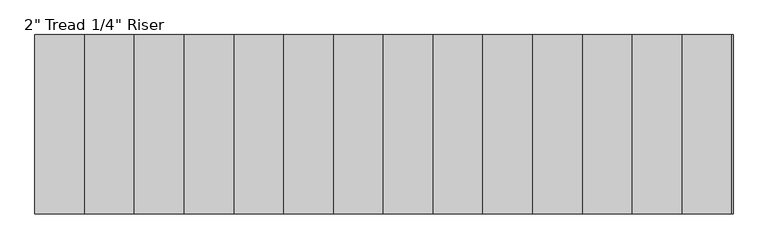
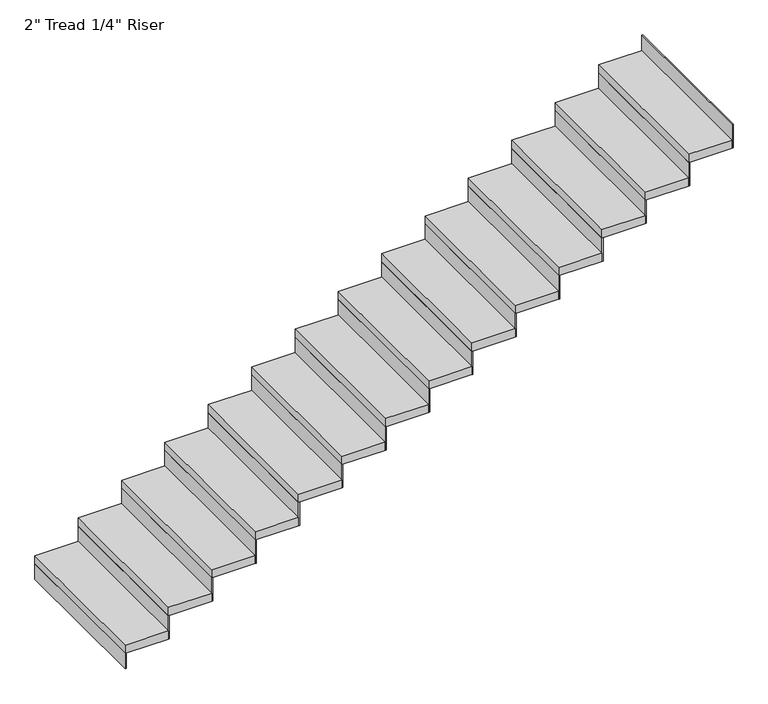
"""IFC4 building model written with IfcOpenShell, lengths in millimetres: stair flight geometry."""

import ifcopenshell
import ifcopenshell.guid

model = None  # the IFC model being written
_history = None  # IfcOwnerHistory: only IFC2X3 demands one
_inside = {}  # id of a spatial element -> (the spatial element, [elements in it])
_under = {}  # id of a project, library or spatial element -> (it, [spatial elements below it])
_declared = {}  # id of a project -> (the project, [libraries it declares])
_typed = {}  # id of a type object -> (the type object, [elements of that type])
_made_of = {}  # id of a material, layer set ... -> (it, [elements and type objects made of it])


def new_model(schema):
    """Start an empty IFC model of exactly this schema.

    Asked for "IFC4X3", IfcOpenShell would pick the latest addendum, in which some entities
    have other attributes; the version numbers below select the first issue.
    IFC2X3 requires an IfcOwnerHistory on every rooted entity: one is made here for all.
    """
    global model, _history
    if schema == "IFC4X3":
        model = ifcopenshell.file(schema_version=(4, 3, 0, 0))
    else:
        model = ifcopenshell.file(schema=schema)
    _inside.clear()
    _under.clear()
    _declared.clear()
    _typed.clear()
    _made_of.clear()
    _history = None
    if model.schema == "IFC2X3":
        org = make("IfcOrganization", Name="unknown")
        user = make(
            "IfcPersonAndOrganization",
            ThePerson=make("IfcPerson", FamilyName="unknown"),
            TheOrganization=org,
        )
        app = make(
            "IfcApplication",
            ApplicationDeveloper=org,
            Version="unknown",
            ApplicationFullName="unknown",
            ApplicationIdentifier="unknown",
        )
        _history = make(
            "IfcOwnerHistory",
            OwningUser=user,
            OwningApplication=app,
            ChangeAction="ADDED",
            CreationDate=0,
        )
    return model


def make(cls, **values):
    """One entity of the class cls with the attributes given. An attribute that is None is left unset."""
    return model.create_entity(
        cls, **{name: value for name, value in values.items() if value is not None}
    )


def rooted(cls, **values):
    """An entity with a GlobalId (a new one), such as an element, a storey or a relation."""
    return make(cls, GlobalId=ifcopenshell.guid.new(), OwnerHistory=_history, **values)


def si_unit(unit_type, name, prefix=None):
    """IfcSIUnit, for example si_unit("LENGTHUNIT", "METRE", prefix="MILLI")."""
    return make("IfcSIUnit", UnitType=unit_type, Prefix=prefix, Name=name)


def assignment(units):
    """IfcUnitAssignment: the units of a project."""
    return None if units is None else make("IfcUnitAssignment", Units=units)


def point(xyz):
    """IfcCartesianPoint."""
    return None if xyz is None else make("IfcCartesianPoint", Coordinates=xyz)


def direction(xyz):
    """IfcDirection."""
    return None if xyz is None else make("IfcDirection", DirectionRatios=xyz)


def frame(location, z_axis=None, x_axis=None):
    """IfcAxis2Placement3D, a coordinate frame: its origin and axes. An axis left out is left unset."""
    return make(
        "IfcAxis2Placement3D",
        Location=point(location),
        Axis=direction(z_axis),
        RefDirection=direction(x_axis),
    )


def origin():
    """The frame at (0, 0, 0) with its axes left unset."""
    return frame((0.0, 0.0, 0.0))


def origin_with_axes():
    """The frame at (0, 0, 0) with the z axis (0, 0, 1) and the x axis (1, 0, 0) written out."""
    return frame((0.0, 0.0, 0.0), z_axis=(0.0, 0.0, 1.0), x_axis=(1.0, 0.0, 0.0))


def place(relative_to, where):
    """IfcLocalPlacement: puts the frame where relative to a parent placement (None: the world)."""
    return make(
        "IfcLocalPlacement", PlacementRelTo=relative_to, RelativePlacement=where
    )


def context(
    kind, dimensions, precision=None, world=None, true_north=None, identifier=None
):
    """IfcGeometricRepresentationContext, for example the 3D "Model" context."""
    return make(
        "IfcGeometricRepresentationContext",
        ContextIdentifier=identifier,
        ContextType=kind,
        CoordinateSpaceDimension=dimensions,
        Precision=precision,
        WorldCoordinateSystem=world,
        TrueNorth=true_north,
    )


def project(units=None, contexts=None):
    """IfcProject with its units and contexts."""
    return rooted(
        "IfcProject",
        Name="project",
        RepresentationContexts=contexts,
        UnitsInContext=assignment(units),
    )


def spatial(cls, under=None, at=None, **own):
    """A site, building, storey or space (cls), placed at a placement, below another one or the project."""
    s = rooted(cls, ObjectPlacement=at, **own)
    if under is not None:
        _under.setdefault(under.id(), (under, []))[1].append(s)
    return s


def polyline(points):
    """IfcPolyline through the points."""
    return make("IfcPolyline", Points=[point(p) for p in points])


def outline(outer, holes=None, kind="AREA"):
    """IfcArbitraryClosedProfileDef: a profile drawn as a closed curve; with holes, ...WithVoids."""
    if holes is None:
        return make("IfcArbitraryClosedProfileDef", ProfileType=kind, OuterCurve=outer)
    return make(
        "IfcArbitraryProfileDefWithVoids",
        ProfileType=kind,
        OuterCurve=outer,
        InnerCurves=holes,
    )


def extrude(swept, where, along, depth):
    """IfcExtrudedAreaSolid: the profile swept, set in the frame where, extruded along a direction by depth."""
    return make(
        "IfcExtrudedAreaSolid",
        SweptArea=swept,
        Position=where,
        ExtrudedDirection=direction(along),
        Depth=depth,
    )


def shape(context_of_items, identifier, shape_type, items):
    """IfcShapeRepresentation: the items that make up one representation, for example the "Body"."""
    return make(
        "IfcShapeRepresentation",
        ContextOfItems=context_of_items,
        RepresentationIdentifier=identifier,
        RepresentationType=shape_type,
        Items=items,
    )


def source(mapping_origin, context_of_items, identifier, shape_type, items):
    """IfcRepresentationMap: a shape defined once, which mapped items show again and again."""
    return make(
        "IfcRepresentationMap",
        MappingOrigin=mapping_origin,
        MappedRepresentation=shape(context_of_items, identifier, shape_type, items),
    )


def transform(
    local_origin,
    x_axis=None,
    y_axis=None,
    z_axis=None,
    scale=None,
    scale2=None,
    scale3=None,
    uniform=True,
):
    """IfcCartesianTransformationOperator3D, or its non-uniform kind. x_axis, y_axis, z_axis: its Axis1, 2, 3."""
    if uniform:
        return make(
            "IfcCartesianTransformationOperator3D",
            Axis1=direction(x_axis),
            Axis2=direction(y_axis),
            LocalOrigin=point(local_origin),
            Scale=scale,
            Axis3=direction(z_axis),
        )
    return make(
        "IfcCartesianTransformationOperator3DnonUniform",
        Axis1=direction(x_axis),
        Axis2=direction(y_axis),
        LocalOrigin=point(local_origin),
        Scale=scale,
        Axis3=direction(z_axis),
        Scale2=scale2,
        Scale3=scale3,
    )


def mapped(mapping_source, mapping_target):
    """IfcMappedItem: shows the shape of a source again, moved by a transform."""
    return make(
        "IfcMappedItem", MappingSource=mapping_source, MappingTarget=mapping_target
    )


def made_of(thing, what):
    """Note that an element or type object is made of a material, layer set ...; save() writes the relation."""
    if what is not None:
        _made_of.setdefault(what.id(), (what, []))[1].append(thing)
    return thing


def element(
    cls,
    number,
    at=None,
    inside=None,
    cuts=None,
    type_object=None,
    material=None,
    context=None,
    identifier="Body",
    shape_type=None,
    held_by="IfcProductDefinitionShape",
    body=None,
    shapes=None,
    **own,
):
    """One element of the class cls, such as IfcWall. Its Tag is "e" and its number.

    at: its placement. inside: the storey or other place that contains it. cuts: it is an
    opening in that element (IfcRelVoidsElement). A single representation is given by context,
    identifier, shape_type and body (its items); several are given by shapes. held_by: the class
    of the entity that holds the representations. save() writes the other relations.
    """
    e = rooted(cls, Tag="e%d" % number, ObjectPlacement=at, **own)
    if body is not None:
        shapes = [shape(context, identifier, shape_type, body)]
    if shapes is not None:
        e.Representation = make(held_by, Representations=shapes)
    if inside is not None:
        _inside.setdefault(inside.id(), (inside, []))[1].append(e)
    if cuts is not None:
        rooted(
            "IfcRelVoidsElement", RelatingBuildingElement=cuts, RelatedOpeningElement=e
        )
    if type_object is not None:
        _typed.setdefault(type_object.id(), (type_object, []))[1].append(e)
    return made_of(e, material)


def aggregate(whole, parts):
    """IfcRelAggregates: a whole, such as a stair, and the parts it consists of."""
    return rooted("IfcRelAggregates", RelatingObject=whole, RelatedObjects=parts)


def save(model, path):
    """Write the relations noted so far, then the file.

    IfcRelAggregates (storeys below a building ...), IfcRelContainedInSpatialStructure (elements
    in a storey), IfcRelDefinesByType, IfcRelAssociatesMaterial and IfcRelDeclares: one each for
    every whole, place, type object, material and project.
    """
    for whole, parts in _under.values():
        aggregate(whole, parts)
    for where, things in _inside.values():
        rooted(
            "IfcRelContainedInSpatialStructure",
            RelatedElements=things,
            RelatingStructure=where,
        )
    for kind, things in _typed.values():
        rooted("IfcRelDefinesByType", RelatedObjects=things, RelatingType=kind)
    for what, things in _made_of.values():
        rooted("IfcRelAssociatesMaterial", RelatedObjects=things, RelatingMaterial=what)
    for by, libraries in _declared.values():
        rooted("IfcRelDeclares", RelatingContext=by, RelatedDefinitions=libraries)
    model.write(path)


def stair_flight_08e099c6(model_context):
    return source(origin(), model_context, "Body", "SweptSolid", [
        extrude(outline(polyline([(108856.6236551, -2391.9711813), (108850.2736551, -2391.9711813), (108850.2736551, -1477.5711813), (108856.6236551, -1477.5711813), (108856.6236551, -2391.9711813)])), origin_with_axes(), (0.0, 0.0, 1.0), 94.3428571),
        extrude(outline(polyline([(109104.2736551, -1477.5711813), (109104.2736551, -2391.9711813), (108850.2736551, -2391.9711813), (108850.2736551, -1477.5711813), (109104.2736551, -1477.5711813)])), frame((0.0, 0.0, 94.3428571), z_axis=(0.0, 0.0, 1.0), x_axis=(1.0, 0.0, 0.0)), (0.0, 0.0, 1.0), 50.8),
        extrude(outline(polyline([(109110.6236551, -2391.9711813), (109104.2736551, -2391.9711813), (109104.2736551, -1477.5711813), (109110.6236551, -1477.5711813), (109110.6236551, -2391.9711813)])), frame((0.0, 0.0, 94.3428571), z_axis=(0.0, 0.0, 1.0), x_axis=(1.0, 0.0, 0.0)), (0.0, 0.0, 1.0), 145.1428571),
        extrude(outline(polyline([(109358.2736551, -1477.5711813), (109358.2736551, -2391.9711813), (109104.2736551, -2391.9711813), (109104.2736551, -1477.5711813), (109358.2736551, -1477.5711813)])), frame((0.0, 0.0, 239.4857143), z_axis=(0.0, 0.0, 1.0), x_axis=(1.0, 0.0, 0.0)), (0.0, 0.0, 1.0), 50.8),
        extrude(outline(polyline([(109364.6236551, -2391.9711813), (109358.2736551, -2391.9711813), (109358.2736551, -1477.5711813), (109364.6236551, -1477.5711813), (109364.6236551, -2391.9711813)])), frame((0.0, 0.0, 239.4857143), z_axis=(0.0, 0.0, 1.0), x_axis=(1.0, 0.0, 0.0)), (0.0, 0.0, 1.0), 145.1428571),
        extrude(outline(polyline([(109612.2736551, -1477.5711813), (109612.2736551, -2391.9711813), (109358.2736551, -2391.9711813), (109358.2736551, -1477.5711813), (109612.2736551, -1477.5711813)])), frame((0.0, 0.0, 384.6285714), z_axis=(0.0, 0.0, 1.0), x_axis=(1.0, 0.0, 0.0)), (0.0, 0.0, 1.0), 50.8),
        extrude(outline(polyline([(109618.6236551, -2391.9711813), (109612.2736551, -2391.9711813), (109612.2736551, -1477.5711813), (109618.6236551, -1477.5711813), (109618.6236551, -2391.9711813)])), frame((0.0, 0.0, 384.6285714), z_axis=(0.0, 0.0, 1.0), x_axis=(1.0, 0.0, 0.0)), (0.0, 0.0, 1.0), 145.1428571),
        extrude(outline(polyline([(109866.2736551, -1477.5711813), (109866.2736551, -2391.9711813), (109612.2736551, -2391.9711813), (109612.2736551, -1477.5711813), (109866.2736551, -1477.5711813)])), frame((0.0, 0.0, 529.7714286), z_axis=(0.0, 0.0, 1.0), x_axis=(1.0, 0.0, 0.0)), (0.0, 0.0, 1.0), 50.8),
        extrude(outline(polyline([(109872.6236551, -2391.9711813), (109866.2736551, -2391.9711813), (109866.2736551, -1477.5711813), (109872.6236551, -1477.5711813), (109872.6236551, -2391.9711813)])), frame((0.0, 0.0, 529.7714286), z_axis=(0.0, 0.0, 1.0), x_axis=(1.0, 0.0, 0.0)), (0.0, 0.0, 1.0), 145.1428571),
        extrude(outline(polyline([(110120.2736551, -1477.5711813), (110120.2736551, -2391.9711813), (109866.2736551, -2391.9711813), (109866.2736551, -1477.5711813), (110120.2736551, -1477.5711813)])), frame((0.0, 0.0, 674.9142857), z_axis=(0.0, 0.0, 1.0), x_axis=(1.0, 0.0, 0.0)), (0.0, 0.0, 1.0), 50.8),
        extrude(outline(polyline([(110126.6236551, -2391.9711813), (110120.2736551, -2391.9711813), (110120.2736551, -1477.5711813), (110126.6236551, -1477.5711813), (110126.6236551, -2391.9711813)])), frame((0.0, 0.0, 674.9142857), z_axis=(0.0, 0.0, 1.0), x_axis=(1.0, 0.0, 0.0)), (0.0, 0.0, 1.0), 145.1428571),
        extrude(outline(polyline([(110374.2736551, -1477.5711813), (110374.2736551, -2391.9711813), (110120.2736551, -2391.9711813), (110120.2736551, -1477.5711813), (110374.2736551, -1477.5711813)])), frame((0.0, 0.0, 820.0571429), z_axis=(0.0, 0.0, 1.0), x_axis=(1.0, 0.0, 0.0)), (0.0, 0.0, 1.0), 50.8),
        extrude(outline(polyline([(110380.6236551, -2391.9711813), (110374.2736551, -2391.9711813), (110374.2736551, -1477.5711813), (110380.6236551, -1477.5711813), (110380.6236551, -2391.9711813)])), frame((0.0, 0.0, 820.0571429), z_axis=(0.0, 0.0, 1.0), x_axis=(1.0, 0.0, 0.0)), (0.0, 0.0, 1.0), 145.1428571),
        extrude(outline(polyline([(110628.2736551, -1477.5711813), (110628.2736551, -2391.9711813), (110374.2736551, -2391.9711813), (110374.2736551, -1477.5711813), (110628.2736551, -1477.5711813)])), frame((0.0, 0.0, 965.2), z_axis=(0.0, 0.0, 1.0), x_axis=(1.0, 0.0, 0.0)), (0.0, 0.0, 1.0), 50.8),
        extrude(outline(polyline([(110634.6236551, -2391.9711813), (110628.2736551, -2391.9711813), (110628.2736551, -1477.5711813), (110634.6236551, -1477.5711813), (110634.6236551, -2391.9711813)])), frame((0.0, 0.0, 965.2), z_axis=(0.0, 0.0, 1.0), x_axis=(1.0, 0.0, 0.0)), (0.0, 0.0, 1.0), 145.1428571),
        extrude(outline(polyline([(110882.2736551, -1477.5711813), (110882.2736551, -2391.9711813), (110628.2736551, -2391.9711813), (110628.2736551, -1477.5711813), (110882.2736551, -1477.5711813)])), frame((0.0, 0.0, 1110.3428571), z_axis=(0.0, 0.0, 1.0), x_axis=(1.0, 0.0, 0.0)), (0.0, 0.0, 1.0), 50.8),
        extrude(outline(polyline([(110888.6236551, -2391.9711813), (110882.2736551, -2391.9711813), (110882.2736551, -1477.5711813), (110888.6236551, -1477.5711813), (110888.6236551, -2391.9711813)])), frame((0.0, 0.0, 1110.3428571), z_axis=(0.0, 0.0, 1.0), x_axis=(1.0, 0.0, 0.0)), (0.0, 0.0, 1.0), 145.1428571),
        extrude(outline(polyline([(111136.2736551, -1477.5711813), (111136.2736551, -2391.9711813), (110882.2736551, -2391.9711813), (110882.2736551, -1477.5711813), (111136.2736551, -1477.5711813)])), frame((0.0, 0.0, 1255.4857143), z_axis=(0.0, 0.0, 1.0), x_axis=(1.0, 0.0, 0.0)), (0.0, 0.0, 1.0), 50.8),
        extrude(outline(polyline([(111142.6236551, -2391.9711813), (111136.2736551, -2391.9711813), (111136.2736551, -1477.5711813), (111142.6236551, -1477.5711813), (111142.6236551, -2391.9711813)])), frame((0.0, 0.0, 1255.4857143), z_axis=(0.0, 0.0, 1.0), x_axis=(1.0, 0.0, 0.0)), (0.0, 0.0, 1.0), 145.1428571),
        extrude(outline(polyline([(111390.2736551, -1477.5711813), (111390.2736551, -2391.9711813), (111136.2736551, -2391.9711813), (111136.2736551, -1477.5711813), (111390.2736551, -1477.5711813)])), frame((0.0, 0.0, 1400.6285714), z_axis=(0.0, 0.0, 1.0), x_axis=(1.0, 0.0, 0.0)), (0.0, 0.0, 1.0), 50.8),
        extrude(outline(polyline([(111396.6236551, -2391.9711813), (111390.2736551, -2391.9711813), (111390.2736551, -1477.5711813), (111396.6236551, -1477.5711813), (111396.6236551, -2391.9711813)])), frame((0.0, 0.0, 1400.6285714), z_axis=(0.0, 0.0, 1.0), x_axis=(1.0, 0.0, 0.0)), (0.0, 0.0, 1.0), 145.1428571),
        extrude(outline(polyline([(111644.2736551, -1477.5711813), (111644.2736551, -2391.9711813), (111390.2736551, -2391.9711813), (111390.2736551, -1477.5711813), (111644.2736551, -1477.5711813)])), frame((0.0, 0.0, 1545.7714286), z_axis=(0.0, 0.0, 1.0), x_axis=(1.0, 0.0, 0.0)), (0.0, 0.0, 1.0), 50.8),
        extrude(outline(polyline([(111650.6236551, -2391.9711813), (111644.2736551, -2391.9711813), (111644.2736551, -1477.5711813), (111650.6236551, -1477.5711813), (111650.6236551, -2391.9711813)])), frame((0.0, 0.0, 1545.7714286), z_axis=(0.0, 0.0, 1.0), x_axis=(1.0, 0.0, 0.0)), (0.0, 0.0, 1.0), 145.1428571),
        extrude(outline(polyline([(111898.2736551, -1477.5711813), (111898.2736551, -2391.9711813), (111644.2736551, -2391.9711813), (111644.2736551, -1477.5711813), (111898.2736551, -1477.5711813)])), frame((0.0, 0.0, 1690.9142857), z_axis=(0.0, 0.0, 1.0), x_axis=(1.0, 0.0, 0.0)), (0.0, 0.0, 1.0), 50.8),
        extrude(outline(polyline([(111904.6236551, -2391.9711813), (111898.2736551, -2391.9711813), (111898.2736551, -1477.5711813), (111904.6236551, -1477.5711813), (111904.6236551, -2391.9711813)])), frame((0.0, 0.0, 1690.9142857), z_axis=(0.0, 0.0, 1.0), x_axis=(1.0, 0.0, 0.0)), (0.0, 0.0, 1.0), 145.1428571),
        extrude(outline(polyline([(112152.2736551, -1477.5711813), (112152.2736551, -2391.9711813), (111898.2736551, -2391.9711813), (111898.2736551, -1477.5711813), (112152.2736551, -1477.5711813)])), frame((0.0, 0.0, 1836.0571429), z_axis=(0.0, 0.0, 1.0), x_axis=(1.0, 0.0, 0.0)), (0.0, 0.0, 1.0), 50.8),
        extrude(outline(polyline([(112158.6236551, -2391.9711813), (112152.2736551, -2391.9711813), (112152.2736551, -1477.5711813), (112158.6236551, -1477.5711813), (112158.6236551, -2391.9711813)])), frame((0.0, 0.0, 1836.0571429), z_axis=(0.0, 0.0, 1.0), x_axis=(1.0, 0.0, 0.0)), (0.0, 0.0, 1.0), 145.1428571),
        extrude(outline(polyline([(112412.6236551, -2391.9711813), (112406.2736551, -2391.9711813), (112406.2736551, -1477.5711813), (112412.6236551, -1477.5711813), (112412.6236551, -2391.9711813)])), frame((0.0, 0.0, 1981.2), z_axis=(0.0, 0.0, 1.0), x_axis=(1.0, 0.0, 0.0)), (0.0, 0.0, 1.0), 145.1428571),
        extrude(outline(polyline([(112406.2736551, -1477.5711813), (112406.2736551, -2391.9711813), (112152.2736551, -2391.9711813), (112152.2736551, -1477.5711813), (112406.2736551, -1477.5711813)])), frame((0.0, 0.0, 1981.2), z_axis=(0.0, 0.0, 1.0), x_axis=(1.0, 0.0, 0.0)), (0.0, 0.0, 1.0), 50.8),
    ])


if __name__ == "__main__":
    model = new_model("IFC4")
    model_context = context("Model", 3, world=origin())
    ifc_project = project(units=[si_unit("LENGTHUNIT", "METRE", prefix="MILLI")], contexts=[model_context])
    site = spatial("IfcSite", under=ifc_project)
    building = spatial("IfcBuilding", under=site)
    placement = place(None, origin())
    stair_flight_shape = stair_flight_08e099c6(model_context)
    element("IfcStairFlight", 1, ObjectType="2\" Tread 1/4\" Riser", at=placement, inside=building, context=model_context, shape_type="MappedRepresentation", body=[
        mapped(stair_flight_shape, transform((0.0, 0.0, 0.0), x_axis=(1.0, 0.0, 0.0), y_axis=(0.0, 1.0, 0.0), z_axis=(0.0, 0.0, 1.0))),
    ])
    save(model, "model.ifc")
